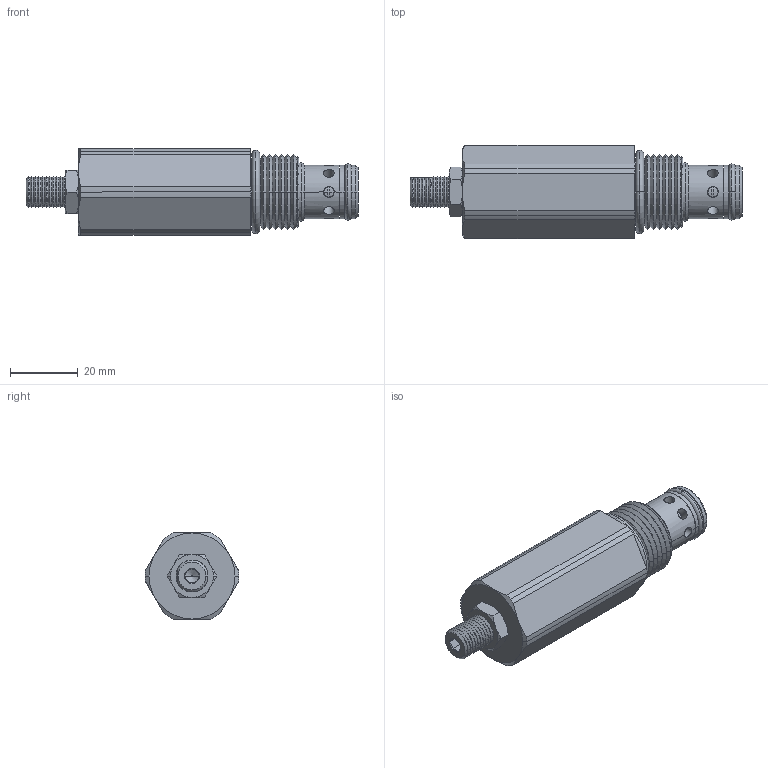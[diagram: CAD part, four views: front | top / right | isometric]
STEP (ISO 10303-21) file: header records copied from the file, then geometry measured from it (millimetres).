
FILE_DESCRIPTION((''),'2;1');
FILE_NAME('U:\Solid model CD\Solid model full\Mechanical\STEP\DEPSD00-3D Full.stp','2008-07-28T16:12:37',('Dan'),(''),'Autodesk Inventor 9','Autodesk Inventor 9','');
FILE_SCHEMA(('AUTOMOTIVE_DESIGN { 1 0 10303 214 1 1 1 1 }'));
Length unit declared in the file: inch
Products named in the file (5): DEPSD00-3D Full; DEPSD00-3D Full1; DEPSD00-3D Full2; DEPSD00-3D Full3; DEPSD00-3D Full4
Assembly tree (4 placements, depth 2):
  DEPSD00-3D Full
    DEPSD00-3D Full1
    DEPSD00-3D Full2
    DEPSD00-3D Full3
    DEPSD00-3D Full4
Bounding box: 97.99 x 27.69 x 25.4 mm (x, y, z)
Volume: 37351.6 mm3; surface area: 10126.1 mm2
Topology: 4 solids, 4 shells, 237 faces, 550 edges, 330 vertices
Faces by surface type: cone 114, cylinder 60, plane 45, bspline 14, torus 4
Entity records: 7645 total; most frequent: CARTESIAN_POINT 2248, DIRECTION 1147, ORIENTED_EDGE 1100, EDGE_CURVE 550, AXIS2_PLACEMENT_3D 481, VERTEX_POINT 330, EDGE_LOOP 268, CIRCLE 249
